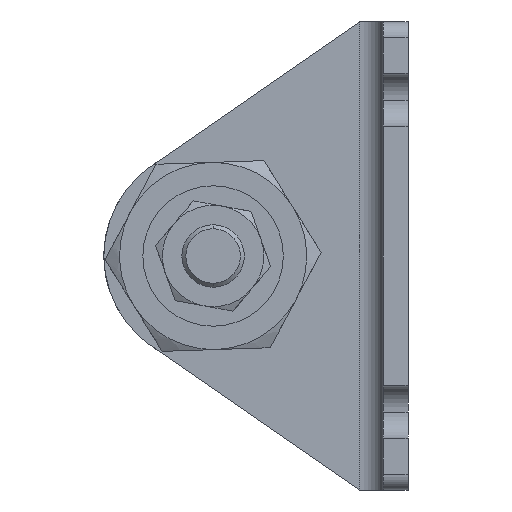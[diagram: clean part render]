
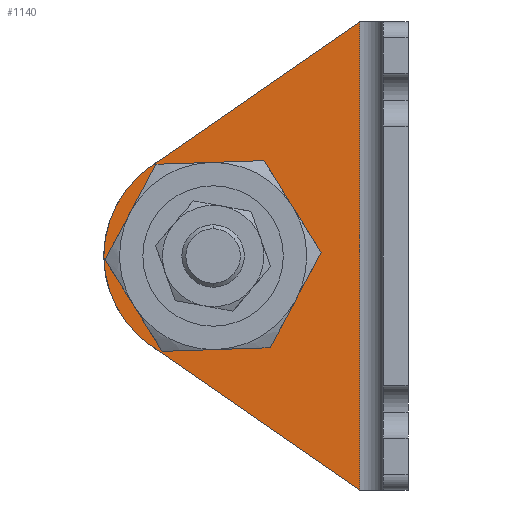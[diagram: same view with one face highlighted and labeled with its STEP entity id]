
A CAD part, left-side view. The second image highlights one B-rep face of the part: STEP entity #1140.
In plain terms, the highlighted planar face has unit normal (-1, 0, 0) as drawn and (1, 0, 0) by its records, which use the part's own axes.
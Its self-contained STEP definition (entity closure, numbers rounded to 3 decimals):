
#8 = AXIS2_PLACEMENT_3D ( 'NONE', #950, #2466, #1872 ) ;
#30 = CARTESIAN_POINT ( 'NONE',  ( 3.2, 25., -30. ) ) ;
#139 = AXIS2_PLACEMENT_3D ( 'NONE', #1056, #3440, #1370 ) ;
#153 = DIRECTION ( 'NONE',  ( 1., 0., 0. ) ) ;
#289 = CARTESIAN_POINT ( 'NONE',  ( 3.2, 15.5, -30. ) ) ;
#330 = CIRCLE ( 'NONE', #139, 14. ) ;
#412 = CARTESIAN_POINT ( 'NONE',  ( 3.2, 32.956, -41.519 ) ) ;
#462 = CARTESIAN_POINT ( 'NONE',  ( 3.2, 6.2, 0. ) ) ;
#471 = CARTESIAN_POINT ( 'NONE',  ( 3.2, 34.5, -30. ) ) ;
#479 = CARTESIAN_POINT ( 'NONE',  ( 3.2, 39., -30. ) ) ;
#515 = EDGE_LOOP ( 'NONE', ( #954, #1386 ) ) ;
#560 = VECTOR ( 'NONE', #3166, 1000. ) ;
#568 = CIRCLE ( 'NONE', #2062, 9.5 ) ;
#578 = CIRCLE ( 'NONE', #8, 9.5 ) ;
#672 = CIRCLE ( 'NONE', #1515, 14. ) ;
#674 = VERTEX_POINT ( 'NONE', #412 ) ;
#700 = LINE ( 'NONE', #2857, #560 ) ;
#818 = CARTESIAN_POINT ( 'NONE',  ( 3.2, 4.169, -61.403 ) ) ;
#837 = VERTEX_POINT ( 'NONE', #2373 ) ;
#904 = DIRECTION ( 'NONE',  ( 0., 1., 0. ) ) ;
#932 = EDGE_CURVE ( 'NONE', #1104, #2140, #578, .T. ) ;
#939 = DIRECTION ( 'NONE',  ( 1., 0., 0. ) ) ;
#950 = CARTESIAN_POINT ( 'NONE',  ( 3.2, 25., -30. ) ) ;
#954 = ORIENTED_EDGE ( 'NONE', *, *, #932, .F. ) ;
#956 = CARTESIAN_POINT ( 'NONE',  ( 3.2, 25., -30. ) ) ;
#1056 = CARTESIAN_POINT ( 'NONE',  ( 3.2, 25., -30. ) ) ;
#1104 = VERTEX_POINT ( 'NONE', #471 ) ;
#1121 = VECTOR ( 'NONE', #3250, 1000. ) ;
#1134 = EDGE_CURVE ( 'NONE', #1202, #1151, #1147, .T. ) ;
#1140 = ADVANCED_FACE ( 'NONE', ( #2577, #2050 ), #1705, .T. ) ;
#1147 = LINE ( 'NONE', #2898, #3355 ) ;
#1151 = VERTEX_POINT ( 'NONE', #2912 ) ;
#1202 = VERTEX_POINT ( 'NONE', #462 ) ;
#1370 = DIRECTION ( 'NONE',  ( 0., 1., 0. ) ) ;
#1386 = ORIENTED_EDGE ( 'NONE', *, *, #2352, .F. ) ;
#1496 = EDGE_CURVE ( 'NONE', #2519, #837, #330, .T. ) ;
#1515 = AXIS2_PLACEMENT_3D ( 'NONE', #30, #939, #904 ) ;
#1615 = EDGE_LOOP ( 'NONE', ( #2596, #2986, #2376, #3229, #3102 ) ) ;
#1705 = PLANE ( 'NONE',  #1910 ) ;
#1872 = DIRECTION ( 'NONE',  ( 0., 1., 0. ) ) ;
#1910 = AXIS2_PLACEMENT_3D ( 'NONE', #2305, #153, #2270 ) ;
#1993 = DIRECTION ( 'NONE',  ( 0., 0., -1. ) ) ;
#2050 = FACE_OUTER_BOUND ( 'NONE', #1615, .T. ) ;
#2062 = AXIS2_PLACEMENT_3D ( 'NONE', #956, #2729, #3059 ) ;
#2110 = LINE ( 'NONE', #818, #1121 ) ;
#2140 = VERTEX_POINT ( 'NONE', #289 ) ;
#2191 = EDGE_CURVE ( 'NONE', #674, #2519, #672, .T. ) ;
#2270 = DIRECTION ( 'NONE',  ( 0., 1., 0. ) ) ;
#2305 = CARTESIAN_POINT ( 'NONE',  ( 3.2, 3.2, -60. ) ) ;
#2352 = EDGE_CURVE ( 'NONE', #2140, #1104, #568, .T. ) ;
#2373 = CARTESIAN_POINT ( 'NONE',  ( 3.2, 32.956, -18.481 ) ) ;
#2376 = ORIENTED_EDGE ( 'NONE', *, *, #1496, .T. ) ;
#2466 = DIRECTION ( 'NONE',  ( 1., 0., 0. ) ) ;
#2519 = VERTEX_POINT ( 'NONE', #479 ) ;
#2577 = FACE_BOUND ( 'NONE', #515, .T. ) ;
#2596 = ORIENTED_EDGE ( 'NONE', *, *, #3791, .T. ) ;
#2657 = EDGE_CURVE ( 'NONE', #1202, #837, #700, .T. ) ;
#2729 = DIRECTION ( 'NONE',  ( 1., 0., 0. ) ) ;
#2857 = CARTESIAN_POINT ( 'NONE',  ( 3.2, 32.226, -17.976 ) ) ;
#2898 = CARTESIAN_POINT ( 'NONE',  ( 3.2, 6.2, -60. ) ) ;
#2912 = CARTESIAN_POINT ( 'NONE',  ( 3.2, 6.2, -60. ) ) ;
#2986 = ORIENTED_EDGE ( 'NONE', *, *, #2191, .T. ) ;
#3059 = DIRECTION ( 'NONE',  ( 0., 1., 0. ) ) ;
#3102 = ORIENTED_EDGE ( 'NONE', *, *, #1134, .T. ) ;
#3166 = DIRECTION ( 'NONE',  ( 0., 0.823, -0.568 ) ) ;
#3229 = ORIENTED_EDGE ( 'NONE', *, *, #2657, .F. ) ;
#3250 = DIRECTION ( 'NONE',  ( 0., 0.823, 0.568 ) ) ;
#3355 = VECTOR ( 'NONE', #1993, 1000. ) ;
#3440 = DIRECTION ( 'NONE',  ( 1., 0., 0. ) ) ;
#3791 = EDGE_CURVE ( 'NONE', #1151, #674, #2110, .T. ) ;
